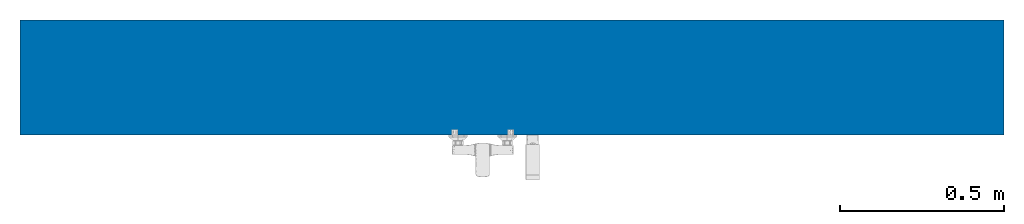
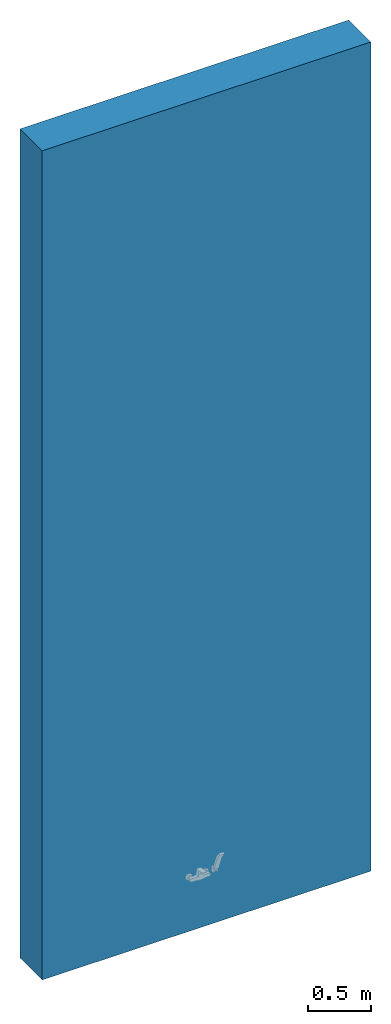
# One storey, incomplete: 1 wall.
"""IFC2X3 building model written with IfcOpenShell, lengths in millimetres."""

from ifc_helpers import new_model, entity, si_unit, converted_unit, derived_unit, direction, frame, frame_2d, origin, place, context, subcontext, project, spatial, rectangle, extrude, type_object, element, save


model = new_model("IFC2X3")

# Units and contexts
model_context = context("Model", 3, precision=0.01, world=origin(), true_north=direction((6.12303176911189e-17, 1.0)))
body_context = subcontext(model_context, "Body", "Model", "MODEL_VIEW")
ifc_project = project(units=[si_unit("LENGTHUNIT", "METRE", prefix="MILLI"), si_unit("AREAUNIT", "SQUARE_METRE"), si_unit("VOLUMEUNIT", "CUBIC_METRE"), converted_unit("PLANEANGLEUNIT", "DEGREE", entity("IfcRatioMeasure", 0.0174532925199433), si_unit("PLANEANGLEUNIT", "RADIAN"), dimensions=[0, 0, 0, 0, 0, 0, 0]), si_unit("MASSUNIT", "GRAM", prefix="KILO"), derived_unit("MASSDENSITYUNIT", [(si_unit("MASSUNIT", "GRAM", prefix="KILO"), 1), (si_unit("LENGTHUNIT", "METRE"), -3)]), derived_unit("MOMENTOFINERTIAUNIT", [(si_unit("LENGTHUNIT", "METRE"), 4)]), si_unit("TIMEUNIT", "SECOND"), si_unit("FREQUENCYUNIT", "HERTZ"), si_unit("THERMODYNAMICTEMPERATUREUNIT", "DEGREE_CELSIUS"), derived_unit("THERMALTRANSMITTANCEUNIT", [(si_unit("MASSUNIT", "GRAM", prefix="KILO"), 1), (si_unit("THERMODYNAMICTEMPERATUREUNIT", "KELVIN"), -1), (si_unit("TIMEUNIT", "SECOND"), -3)]), derived_unit("VOLUMETRICFLOWRATEUNIT", [(si_unit("LENGTHUNIT", "METRE"), 3), (si_unit("TIMEUNIT", "SECOND"), -1)]), si_unit("ELECTRICCURRENTUNIT", "AMPERE"), si_unit("ELECTRICVOLTAGEUNIT", "VOLT"), si_unit("POWERUNIT", "WATT"), si_unit("FORCEUNIT", "NEWTON", prefix="KILO"), si_unit("ILLUMINANCEUNIT", "LUX"), si_unit("LUMINOUSFLUXUNIT", "LUMEN"), si_unit("LUMINOUSINTENSITYUNIT", "CANDELA"), derived_unit("USERDEFINED", [(si_unit("MASSUNIT", "GRAM", prefix="KILO"), -1), (si_unit("LENGTHUNIT", "METRE"), -2), (si_unit("TIMEUNIT", "SECOND"), 3), (si_unit("LUMINOUSFLUXUNIT", "LUMEN"), 1)]), derived_unit("LINEARVELOCITYUNIT", [(si_unit("LENGTHUNIT", "METRE"), 1), (si_unit("TIMEUNIT", "SECOND"), -1)]), si_unit("PRESSUREUNIT", "PASCAL"), derived_unit("USERDEFINED", [(si_unit("LENGTHUNIT", "METRE"), -2), (si_unit("MASSUNIT", "GRAM", prefix="KILO"), 1), (si_unit("TIMEUNIT", "SECOND"), -2)]), derived_unit("LINEARFORCEUNIT", [(si_unit("MASSUNIT", "GRAM", prefix="KILO"), 1), (si_unit("LENGTHUNIT", "METRE"), 1), (si_unit("TIMEUNIT", "SECOND"), -2), (si_unit("LENGTHUNIT", "METRE"), -1)]), derived_unit("PLANARFORCEUNIT", [(si_unit("MASSUNIT", "GRAM", prefix="KILO"), 1), (si_unit("LENGTHUNIT", "METRE"), 1), (si_unit("TIMEUNIT", "SECOND"), -2), (si_unit("LENGTHUNIT", "METRE"), -2)])], contexts=[model_context])

# Site, building, storey
site_placement = place(None, origin())
site = spatial("IfcSite", under=ifc_project, at=site_placement, Name="Default", CompositionType="ELEMENT")
building_placement = place(site_placement, origin())
building = spatial("IfcBuilding", under=site, at=building_placement, CompositionType="ELEMENT")
storey_placement = place(building_placement, origin())
storey = spatial("IfcBuildingStorey", under=building, at=storey_placement, Name="Level 1", CompositionType="ELEMENT", Elevation=0.0)

# Wall
wall_type = type_object("IfcWallType", Name="Basic Wall:Exterior - Brick on Mtl. Stud", PredefinedType="STANDARD")
wall_placement = place(storey_placement, frame((-5608.83159352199, 1639.31847849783, 0.0)))
element("IfcWallStandardCase", 1, at=wall_placement, inside=storey, type_object=wall_type, Name="Basic Wall:Exterior - Brick on Mtl. Stud", ObjectType="Basic Wall:Exterior - Brick on Mtl. Stud", context=body_context, shape_type="SweptSolid", body=[
    extrude(rectangle(XDim=3000.0, YDim=350.0, at=frame_2d((1500.0, 0.0), x_axis=(-1.0, 0.0))), origin(), (0.0, 0.0, 1.0), 8000.0),
])

save(model, "model.ifc")
